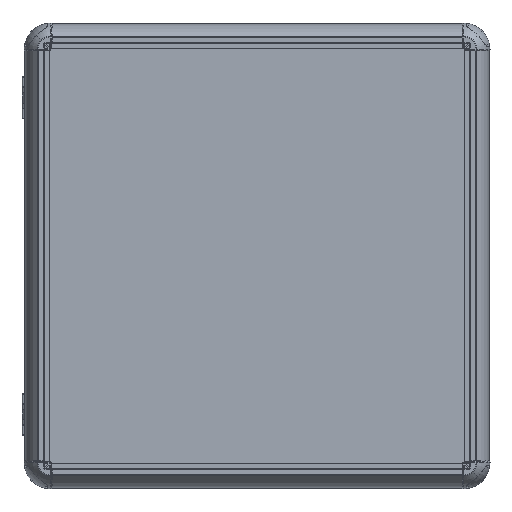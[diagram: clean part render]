
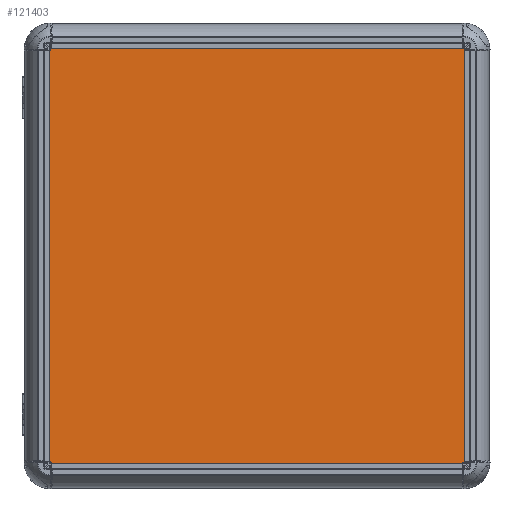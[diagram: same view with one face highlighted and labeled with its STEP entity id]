
A CAD part, top view. The second image highlights one B-rep face of the part: STEP entity #121403.
In plain terms, the highlighted planar face has unit normal (0, 0, 1).
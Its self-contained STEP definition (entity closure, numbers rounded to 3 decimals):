
#415 = EDGE_CURVE ( 'NONE', #84637, #102045, #1273, .T. ) ;
#1273 = LINE ( 'NONE', #15510, #20286 ) ;
#2609 = CARTESIAN_POINT ( 'NONE',  ( -200., 200., 2. ) ) ;
#4236 = CARTESIAN_POINT ( 'NONE',  ( -200., 200., 2. ) ) ;
#4724 = VERTEX_POINT ( 'NONE', #4236 ) ;
#5466 = PLANE ( 'NONE',  #66850 ) ;
#6931 = VECTOR ( 'NONE', #129042, 1000. ) ;
#8298 = CARTESIAN_POINT ( 'NONE',  ( 200., -200., 2. ) ) ;
#13175 = DIRECTION ( 'NONE',  ( 0., -1., 0. ) ) ;
#15510 = CARTESIAN_POINT ( 'NONE',  ( 200., 200., 2. ) ) ;
#20286 = VECTOR ( 'NONE', #46975, 1000. ) ;
#23494 = EDGE_LOOP ( 'NONE', ( #69017, #35531, #137883, #88343 ) ) ;
#25154 = CARTESIAN_POINT ( 'NONE',  ( -200., 200., 2. ) ) ;
#26054 = CARTESIAN_POINT ( 'NONE',  ( 200., 200., 2. ) ) ;
#35471 = CARTESIAN_POINT ( 'NONE',  ( -200., -200., 2. ) ) ;
#35531 = ORIENTED_EDGE ( 'NONE', *, *, #50150, .T. ) ;
#37845 = LINE ( 'NONE', #2609, #6931 ) ;
#38459 = CARTESIAN_POINT ( 'NONE',  ( 0., 0., 2. ) ) ;
#39887 = DIRECTION ( 'NONE',  ( 0., 0., 1. ) ) ;
#46975 = DIRECTION ( 'NONE',  ( 0., 1., 0. ) ) ;
#50143 = EDGE_CURVE ( 'NONE', #113635, #84637, #94282, .T. ) ;
#50150 = EDGE_CURVE ( 'NONE', #102045, #4724, #37845, .T. ) ;
#50377 = DIRECTION ( 'NONE',  ( 1., 0., 0. ) ) ;
#59128 = EDGE_CURVE ( 'NONE', #4724, #113635, #70872, .T. ) ;
#66850 = AXIS2_PLACEMENT_3D ( 'NONE', #38459, #39887, #50377 ) ;
#69017 = ORIENTED_EDGE ( 'NONE', *, *, #415, .T. ) ;
#70872 = LINE ( 'NONE', #25154, #114667 ) ;
#82384 = CARTESIAN_POINT ( 'NONE',  ( -200., -200., 2. ) ) ;
#84637 = VERTEX_POINT ( 'NONE', #8298 ) ;
#88343 = ORIENTED_EDGE ( 'NONE', *, *, #50143, .T. ) ;
#94282 = LINE ( 'NONE', #82384, #143040 ) ;
#102045 = VERTEX_POINT ( 'NONE', #26054 ) ;
#107938 = FACE_OUTER_BOUND ( 'NONE', #23494, .T. ) ;
#113635 = VERTEX_POINT ( 'NONE', #35471 ) ;
#114667 = VECTOR ( 'NONE', #13175, 1000. ) ;
#115906 = DIRECTION ( 'NONE',  ( 1., 0., 0. ) ) ;
#121403 = ADVANCED_FACE ( 'NONE', ( #107938 ), #5466, .T. ) ;
#129042 = DIRECTION ( 'NONE',  ( -1., 0., 0. ) ) ;
#137883 = ORIENTED_EDGE ( 'NONE', *, *, #59128, .T. ) ;
#143040 = VECTOR ( 'NONE', #115906, 1000. ) ;
